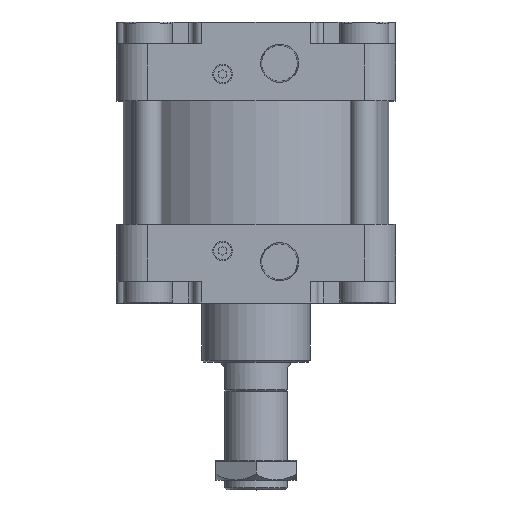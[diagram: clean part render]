
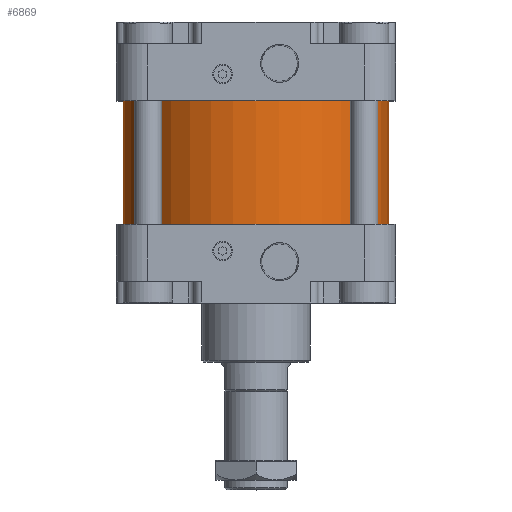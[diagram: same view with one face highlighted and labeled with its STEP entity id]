
A CAD part, top view. The second image highlights one B-rep face of the part: STEP entity #6869.
In plain terms, the highlighted cylindrical face has radius 67.5 mm (diameter 135 mm), a full revolution.
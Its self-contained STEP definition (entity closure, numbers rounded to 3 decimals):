
#203=CYLINDRICAL_SURFACE('',#7405,67.5);
#432=CIRCLE('',#7406,67.5);
#433=CIRCLE('',#7407,67.5);
#1607=ORIENTED_EDGE('',*,*,#2425,.T.);
#1608=ORIENTED_EDGE('',*,*,#2426,.F.);
#2425=EDGE_CURVE('',#2939,#2939,#432,.T.);
#2426=EDGE_CURVE('',#2940,#2940,#433,.T.);
#2939=VERTEX_POINT('',#10224);
#2940=VERTEX_POINT('',#10226);
#4089=EDGE_LOOP('',(#1607));
#4090=EDGE_LOOP('',(#1608));
#4471=FACE_BOUND('',#4089,.T.);
#4472=FACE_BOUND('',#4090,.T.);
#6869=ADVANCED_FACE('',(#4471,#4472),#203,.T.);
#7405=AXIS2_PLACEMENT_3D('',#10222,#8747,#8748);
#7406=AXIS2_PLACEMENT_3D('',#10223,#8749,#8750);
#7407=AXIS2_PLACEMENT_3D('',#10225,#8751,#8752);
#8747=DIRECTION('',(0.,-1.,0.));
#8748=DIRECTION('',(0.,0.,-1.));
#8749=DIRECTION('',(0.,-1.,0.));
#8750=DIRECTION('',(0.,0.,-1.));
#8751=DIRECTION('',(0.,-1.,0.));
#8752=DIRECTION('',(0.,0.,-1.));
#10222=CARTESIAN_POINT('',(0.,17.5,0.));
#10223=CARTESIAN_POINT('',(0.,31.5,0.));
#10224=CARTESIAN_POINT('',(0.,31.5,-67.5));
#10225=CARTESIAN_POINT('',(0.,-31.5,0.));
#10226=CARTESIAN_POINT('',(0.,-31.5,-67.5));
